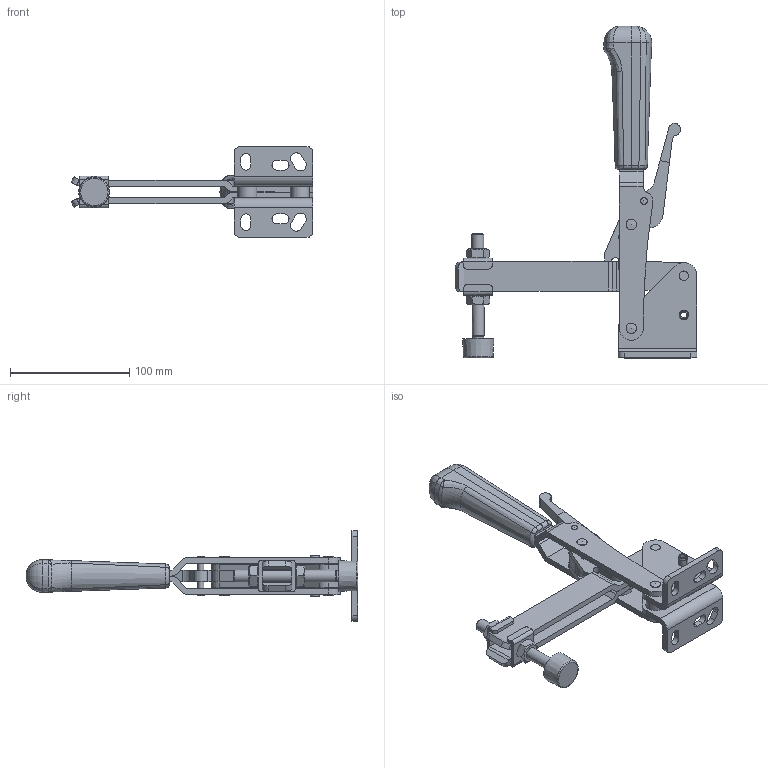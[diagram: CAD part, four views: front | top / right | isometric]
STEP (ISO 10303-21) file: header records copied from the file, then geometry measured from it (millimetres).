
FILE_DESCRIPTION(/* description */ (''),/* implementation_level */ '2;1');
FILE_NAME(/* name */ '/Users/eric/Desktop/Abco 1606B Closed:Fermée.stp',/* time_stamp */ '2014-07-26T08:41:24+02:00',/* author */ (''),/* organization */ (''),/* preprocessor_version */ 'ST-DEVELOPER v14.6',/* originating_system */ '',/* authorisation */ '');
FILE_SCHEMA (('AUTOMOTIVE_DESIGN { 1 2 10303 214 1 1 1 1 }'));
Length unit declared in the file: centimetre
Products named in the file (1): 1234-K789
Bounding box: 202.63 x 278.06 x 76 mm (x, y, z)
Volume: 273919.8 mm3; surface area: 140028.9 mm2
Topology: 38 solids, 38 shells, 484 faces, 1161 edges, 743 vertices
Faces by surface type: plane 226, cylinder 183, cone 36, bspline 24, sphere 8, torus 7
Full cylindrical faces by diameter (mm): 4 x3, 5 x8, 8 x25, 8.376 x2, 9.188 x1, 10 x1, 10.2 x2, 12 x16, 14 x4, 15.4 x2, 16 x2
Entity records: 14179 total; most frequent: CARTESIAN_POINT 3232, DIRECTION 2296, ORIENTED_EDGE 2084, EDGE_CURVE 1042, AXIS2_PLACEMENT_3D 893, VERTEX_POINT 725, EDGE_LOOP 673, LINE 510
